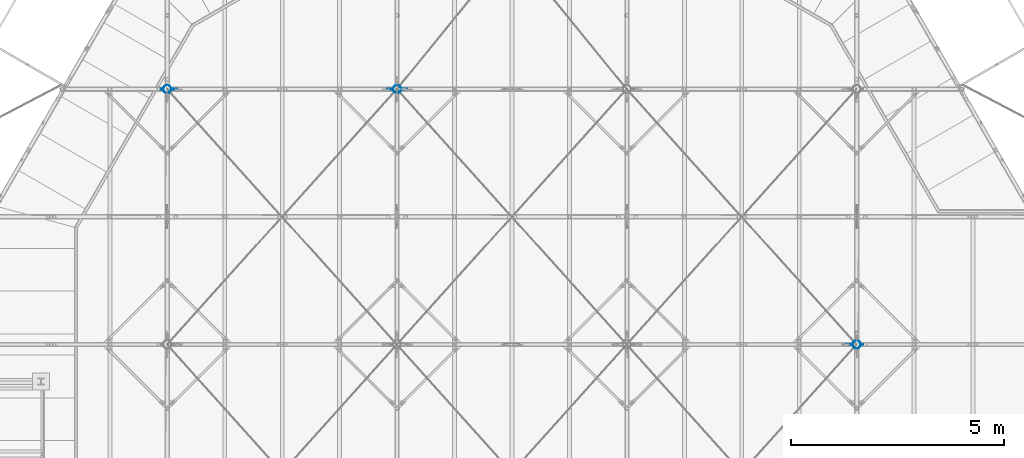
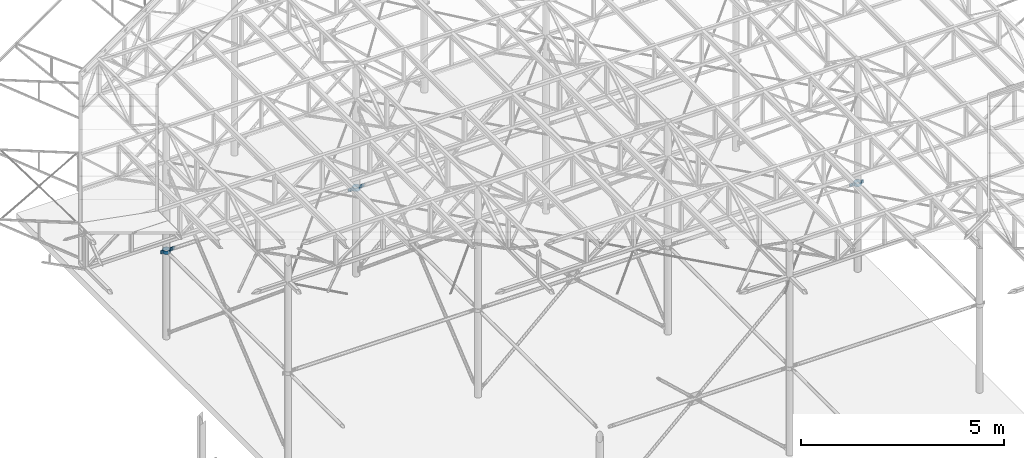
# One storey, part 129 of 132: 6 beams, 6 elements without a shape of their own.
"""IFC2X3 building model written with IfcOpenShell, lengths in millimetres."""

from ifc_helpers import new_model, si_unit, frame, origin_with_axes, place, context, subcontext, project, spatial, faceted_brep, material, type_object, element, aggregate, save


model = new_model("IFC2X3")

# Units and contexts
model_context = context("Model", 3, precision=1e-05, world=origin_with_axes())
body_context = subcontext(model_context, "Body", "Model", "MODEL_VIEW")
ifc_project = project(units=[si_unit("LENGTHUNIT", "METRE", prefix="MILLI"), si_unit("AREAUNIT", "SQUARE_METRE"), si_unit("VOLUMEUNIT", "CUBIC_METRE"), si_unit("MASSUNIT", "GRAM", prefix="KILO"), si_unit("TIMEUNIT", "SECOND"), si_unit("PLANEANGLEUNIT", "RADIAN"), si_unit("SOLIDANGLEUNIT", "STERADIAN"), si_unit("THERMODYNAMICTEMPERATUREUNIT", "DEGREE_CELSIUS"), si_unit("LUMINOUSINTENSITYUNIT", "LUMEN")], contexts=[model_context])

# Site, building, storey
site_placement = place(None, origin_with_axes())
site = spatial("IfcSite", under=ifc_project, at=site_placement, Name="Budowa", CompositionType="ELEMENT")
building_placement = place(site_placement, origin_with_axes())
building = spatial("IfcBuilding", under=site, at=building_placement, Name="Undefined", CompositionType="ELEMENT")
storey_placement = place(building_placement, origin_with_axes())
storey = spatial("IfcBuildingStorey", under=building, at=storey_placement, Name="Undefined", CompositionType="ELEMENT", Elevation=0.0)

# Assembly, beam
assembly_1_placement = place(storey_placement, origin_with_axes())
assembly_1 = element("IfcElementAssembly", 1, at=assembly_1_placement, inside=storey, Name="Steel Assembly", AssemblyPlace="NOTDEFINED", PredefinedType="RIGID_FRAME")
ifc_material = material(Name="STEEL/S235JR")
beam_type = type_object("IfcBeamType", Name="BL8*100", PredefinedType="NOTDEFINED")
beam_1_placement = place(assembly_1_placement, frame((4258.13669400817, 18006.0000002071, 10116.0003779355), z_axis=(0.0, 0.0, 1.0), x_axis=(-1.0, 0.0, 0.0)))
beam_1 = element("IfcBeam", 2, at=beam_1_placement, type_object=beam_type, material=ifc_material, Name="BEAM", ObjectType="BL8*100", context=body_context, shape_type="Brep", body=[
    faceted_brep([(0.0, 4.0, -50.0), (0.0, 4.0, 50.0), (129.968378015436, 4.0, 50.0), (129.968378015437, 4.00000000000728, -50.0), (0.0, -4.0, 50.0), (0.0, -4.0, -50.0), (129.968378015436, -4.0, -50.0), (129.968378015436, -4.0, 50.0), (137.356355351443, 2.19217357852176, 50.0), (137.356355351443, 2.19217357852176, -50.0), (133.662366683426, -4.90391321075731, -50.0), (133.662366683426, -4.90391321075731, 50.0), (136.521594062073, -7.41138806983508, -50.0), (136.521594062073, -7.41138806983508, 50.0), (143.074810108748, -2.8227761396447, 50.0), (143.074810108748, -2.8227761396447, -50.0), (137.89993680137, -10.955789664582, -50.0), (137.89993680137, -10.955789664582, 50.0), (145.831495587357, -9.91157932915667, 50.0), (145.831495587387, -9.91157932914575, -50.0), (146.782928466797, -17.1384239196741, 50.0), (146.782928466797, -17.1384239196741, -50.0), (138.988842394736, -19.2268423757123, -50.0), (138.988842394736, -19.2268423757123, 50.0), (155.714019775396, -38.7000007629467, 50.0), (155.714019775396, -38.7000007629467, -50.0), (148.726032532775, -42.7345153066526, -50.0), (148.726032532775, -42.7345153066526, 50.0), (169.921340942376, -57.2153472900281, 50.0), (169.921340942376, -57.2153472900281, -50.0), (164.215673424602, -62.9210138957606, -50.0), (164.215673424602, -62.9210138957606, 50.0), (188.436691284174, -71.4226760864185, 50.0), (188.436691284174, -71.4226760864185, -50.0), (184.402176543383, -78.4106633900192, -50.0), (184.402176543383, -78.4106633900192, 50.0), (209.998275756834, -80.3537673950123, 50.0), (209.998275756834, -80.3537673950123, -50.0), (207.909857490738, -88.1478534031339, -50.0), (207.909857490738, -88.1478534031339, 50.0), (233.136688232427, -83.4000015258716, 50.0), (233.136688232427, -83.4000015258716, -50.0), (233.136687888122, -91.4690333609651, -50.0), (233.136687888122, -91.4690333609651, 50.0), (256.275115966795, -80.3537673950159, 50.0), (256.275115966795, -80.3537673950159, -50.0), (258.363533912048, -88.1478535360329, -50.0), (258.363533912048, -88.1478535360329, 50.0), (277.836700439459, -71.4226760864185, 50.0), (277.836700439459, -71.4226760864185, -50.0), (281.87121518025, -78.4106633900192, -50.0), (281.87121518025, -78.4106633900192, 50.0), (296.352050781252, -57.2153472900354, 50.0), (296.352050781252, -57.2153472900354, -50.0), (302.057719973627, -62.9210126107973, -50.0), (302.057719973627, -62.9210126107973, 50.0), (310.559356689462, -38.7000007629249, 50.0), (310.559356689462, -38.7000007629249, -50.0), (317.5473417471, -42.7345172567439, -50.0), (317.5473417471, -42.7345172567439, 50.0), (319.490478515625, -17.138423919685, 50.0), (319.490478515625, -17.138423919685, -50.0), (327.284563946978, -19.2268472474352, -50.0), (327.284563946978, -19.2268472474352, 50.0), (320.4419114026, -9.91157923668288, 50.0), (320.441911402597, -9.91157923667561, -50.0), (328.37347018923, -10.9557895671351, -50.0), (328.37347018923, -10.9557895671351, 50.0), (323.198596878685, -2.82277604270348, 50.0), (323.198596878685, -2.82277604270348, -50.0), (329.75181292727, -7.41138797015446, -50.0), (329.75181292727, -7.41138797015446, 50.0), (332.611040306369, -4.90391310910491, -50.0), (332.611040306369, -4.90391310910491, 50.0), (328.917051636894, 2.19217367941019, 50.0), (328.917051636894, 2.19217367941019, -50.0), (336.305028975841, -3.99999989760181, -50.0), (336.305028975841, -3.99999989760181, 50.0), (336.30502897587, 4.00000010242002, 50.0), (336.305028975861, 4.0000001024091, -50.0), (391.273406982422, 4.0000001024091, 50.0), (391.273406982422, 4.0000001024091, -50.0), (391.273406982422, -3.9999998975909, 50.0), (391.273406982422, -3.9999998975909, -50.0)], [[[0, 1, 2, 3]], [[4, 5, 6, 7]], [[5, 4, 1, 0]], [[3, 2, 8, 9]], [[7, 6, 10, 11]], [[10, 12, 13, 11]], [[8, 14, 15, 9]], [[12, 16, 17, 13]], [[14, 18, 19, 15]], [[19, 18, 20, 21]], [[17, 16, 22, 23]], [[21, 20, 24, 25]], [[23, 22, 26, 27]], [[25, 24, 28, 29]], [[27, 26, 30, 31]], [[29, 28, 32, 33]], [[31, 30, 34, 35]], [[33, 32, 36, 37]], [[35, 34, 38, 39]], [[37, 36, 40, 41]], [[39, 38, 42, 43]], [[41, 40, 44, 45]], [[43, 42, 46, 47]], [[45, 44, 48, 49]], [[47, 46, 50, 51]], [[49, 48, 52, 53]], [[51, 50, 54, 55]], [[53, 52, 56, 57]], [[55, 54, 58, 59]], [[57, 56, 60, 61]], [[59, 58, 62, 63]], [[61, 60, 64, 65]], [[63, 62, 66, 67]], [[65, 64, 68, 69]], [[67, 66, 70, 71]], [[70, 72, 73, 71]], [[68, 74, 75, 69]], [[72, 76, 77, 73]], [[74, 78, 79, 75]], [[79, 78, 80, 81]], [[78, 74, 68, 64, 60, 56, 52, 48, 44, 40, 36, 32, 28, 24, 20, 18, 14, 8, 2, 1, 4, 7, 11, 13, 17, 23, 27, 31, 35, 39, 43, 47, 51, 55, 59, 63, 67, 71, 73, 77, 82, 80]], [[77, 76, 83, 82]], [[76, 72, 70, 66, 62, 58, 54, 50, 46, 42, 38, 34, 30, 26, 22, 16, 12, 10, 6, 5, 0, 3, 9, 15, 19, 21, 25, 29, 33, 37, 41, 45, 49, 53, 57, 61, 65, 69, 75, 79, 81, 83]], [[82, 83, 81, 80]]]),
])
aggregate(assembly_1, [beam_1])

assembly_2_placement = place(storey_placement, origin_with_axes())
assembly_2 = element("IfcElementAssembly", 3, at=assembly_2_placement, inside=storey, Name="Steel Assembly", AssemblyPlace="NOTDEFINED", PredefinedType="RIGID_FRAME")
beam_2_placement = place(assembly_2_placement, frame((4183.13669400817, 17993.9999999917, 10116.0003779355), z_axis=(0.0, 0.0, 1.0), x_axis=(-1.0, 0.0, 0.0)))
beam_2 = element("IfcBeam", 4, at=beam_2_placement, type_object=beam_type, material=ifc_material, Name="BEAM", ObjectType="BL8*100", context=body_context, shape_type="Brep", body=[
    faceted_brep([(0.0, 4.0, -50.0), (0.0, 4.0, 50.0), (54.9683780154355, 4.0, 50.0), (54.9683780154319, 4.00000000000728, -50.0), (0.0, -4.0, 50.0), (0.0, -4.0, -50.0), (54.9683780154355, -4.0, -50.0), (54.9683780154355, -4.0, 50.0), (58.6623666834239, 4.90391321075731, 50.0), (58.6623666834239, 4.90391321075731, -50.0), (62.3563553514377, -2.19217357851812, -50.0), (62.3563553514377, -2.19217357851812, 50.0), (68.0748101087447, 2.82277613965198, -50.0), (68.0748101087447, 2.82277613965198, 50.0), (61.5215940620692, 7.41138806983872, 50.0), (61.5215940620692, 7.41138806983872, -50.0), (70.8314955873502, 9.91157932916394, -50.0), (70.8314955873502, 9.91157932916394, 50.0), (62.8999368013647, 10.9557896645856, 50.0), (62.899936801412, 10.9557896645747, -50.0), (63.9888423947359, 19.2268423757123, 50.0), (63.9888423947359, 19.2268423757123, -50.0), (71.7829284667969, 17.1384239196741, -50.0), (71.7829284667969, 17.1384239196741, 50.0), (73.7260325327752, 42.7345153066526, 50.0), (73.7260325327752, 42.7345153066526, -50.0), (80.7140197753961, 38.7000007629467, -50.0), (80.7140197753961, 38.7000007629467, 50.0), (89.2156734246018, 62.9210138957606, 50.0), (89.2156734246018, 62.9210138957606, -50.0), (94.9213409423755, 57.2153472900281, -50.0), (94.9213409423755, 57.2153472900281, 50.0), (109.402176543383, 78.4106633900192, 50.0), (109.402176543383, 78.4106633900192, -50.0), (113.436691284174, 71.4226760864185, -50.0), (113.436691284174, 71.4226760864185, 50.0), (132.909857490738, 88.1478534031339, 50.0), (132.909857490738, 88.1478534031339, -50.0), (134.998275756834, 80.3537673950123, -50.0), (134.998275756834, 80.3537673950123, 50.0), (158.136687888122, 91.4690333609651, 50.0), (158.136687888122, 91.4690333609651, -50.0), (158.136688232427, 83.4000015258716, -50.0), (158.136688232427, 83.4000015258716, 50.0), (183.363533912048, 88.1478535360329, 50.0), (183.363533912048, 88.1478535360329, -50.0), (181.275115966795, 80.3537673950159, -50.0), (181.275115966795, 80.3537673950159, 50.0), (206.87121518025, 78.4106633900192, 50.0), (206.87121518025, 78.4106633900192, -50.0), (202.836700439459, 71.4226760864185, -50.0), (202.836700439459, 71.4226760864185, 50.0), (227.057719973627, 62.9210126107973, 50.0), (227.057719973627, 62.9210126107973, -50.0), (221.352050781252, 57.2153472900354, -50.0), (221.352050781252, 57.2153472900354, 50.0), (242.5473417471, 42.7345172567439, 50.0), (242.5473417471, 42.7345172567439, -50.0), (235.559356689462, 38.7000007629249, -50.0), (235.559356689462, 38.7000007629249, 50.0), (252.284563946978, 19.2268472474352, 50.0), (252.284563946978, 19.2268472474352, -50.0), (244.490478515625, 17.138423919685, -50.0), (244.490478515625, 17.138423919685, 50.0), (253.37347018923, 10.9557895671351, 50.0), (253.373470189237, 10.9557895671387, -50.0), (245.4419114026, 9.91157923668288, -50.0), (245.4419114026, 9.91157923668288, 50.0), (254.751812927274, 7.4113879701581, 50.0), (254.751812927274, 7.4113879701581, -50.0), (248.198596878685, 2.82277604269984, -50.0), (248.198596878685, 2.82277604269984, 50.0), (253.91705163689, -2.19217367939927, -50.0), (253.91705163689, -2.19217367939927, 50.0), (257.611040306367, 4.90391310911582, 50.0), (257.611040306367, 4.90391310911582, -50.0), (261.305028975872, -4.00000010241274, -50.0), (261.305028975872, -4.00000010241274, 50.0), (261.305028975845, 3.99999989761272, 50.0), (261.305028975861, 3.9999998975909, -50.0), (316.273406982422, 3.9999998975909, 50.0), (316.273406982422, 3.9999998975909, -50.0), (316.273406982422, -4.0000001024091, 50.0), (316.273406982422, -4.0000001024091, -50.0)], [[[0, 1, 2, 3]], [[4, 5, 6, 7]], [[5, 4, 1, 0]], [[3, 2, 8, 9]], [[7, 6, 10, 11]], [[10, 12, 13, 11]], [[8, 14, 15, 9]], [[12, 16, 17, 13]], [[14, 18, 19, 15]], [[19, 18, 20, 21]], [[17, 16, 22, 23]], [[21, 20, 24, 25]], [[23, 22, 26, 27]], [[25, 24, 28, 29]], [[27, 26, 30, 31]], [[29, 28, 32, 33]], [[31, 30, 34, 35]], [[33, 32, 36, 37]], [[35, 34, 38, 39]], [[37, 36, 40, 41]], [[39, 38, 42, 43]], [[41, 40, 44, 45]], [[43, 42, 46, 47]], [[45, 44, 48, 49]], [[47, 46, 50, 51]], [[49, 48, 52, 53]], [[51, 50, 54, 55]], [[53, 52, 56, 57]], [[55, 54, 58, 59]], [[57, 56, 60, 61]], [[59, 58, 62, 63]], [[61, 60, 64, 65]], [[63, 62, 66, 67]], [[65, 64, 68, 69]], [[67, 66, 70, 71]], [[70, 72, 73, 71]], [[68, 74, 75, 69]], [[72, 76, 77, 73]], [[74, 78, 79, 75]], [[79, 78, 80, 81]], [[78, 74, 68, 64, 60, 56, 52, 48, 44, 40, 36, 32, 28, 24, 20, 18, 14, 8, 2, 1, 4, 7, 11, 13, 17, 23, 27, 31, 35, 39, 43, 47, 51, 55, 59, 63, 67, 71, 73, 77, 82, 80]], [[77, 76, 83, 82]], [[76, 72, 70, 66, 62, 58, 54, 50, 46, 42, 38, 34, 30, 26, 22, 16, 12, 10, 6, 5, 0, 3, 9, 15, 19, 21, 25, 29, 33, 37, 41, 45, 49, 53, 57, 61, 65, 69, 75, 79, 81, 83]], [[82, 83, 81, 80]]]),
])
aggregate(assembly_2, [beam_2])

assembly_3_placement = place(storey_placement, origin_with_axes())
assembly_3 = element("IfcElementAssembly", 5, at=assembly_3_placement, inside=storey, Name="Steel Assembly", AssemblyPlace="NOTDEFINED", PredefinedType="RIGID_FRAME")
beam_3_placement = place(assembly_3_placement, frame((9658.13669408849, 18006.00000016, 10116.0003779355), z_axis=(0.0, 0.0, 1.0), x_axis=(-1.0, 0.0, 0.0)))
beam_3 = element("IfcBeam", 6, at=beam_3_placement, type_object=beam_type, material=ifc_material, Name="BEAM", ObjectType="BL8*100", context=body_context, shape_type="Brep", body=[
    faceted_brep([(0.0, 4.0, -50.0), (0.0, 4.0, 50.0), (129.968378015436, 4.0, 50.0), (129.968378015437, 4.00000000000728, -50.0), (0.0, -4.0, 50.0), (0.0, -4.0, -50.0), (129.968378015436, -4.0, -50.0), (129.968378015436, -4.0, 50.0), (137.356355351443, 2.19217357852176, 50.0), (137.356355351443, 2.19217357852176, -50.0), (133.662366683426, -4.90391321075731, -50.0), (133.662366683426, -4.90391321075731, 50.0), (136.521594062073, -7.41138806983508, -50.0), (136.521594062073, -7.41138806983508, 50.0), (143.074810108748, -2.8227761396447, 50.0), (143.074810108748, -2.8227761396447, -50.0), (137.89993680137, -10.955789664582, -50.0), (137.89993680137, -10.955789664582, 50.0), (145.831495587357, -9.91157932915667, 50.0), (145.831495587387, -9.91157932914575, -50.0), (146.782928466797, -17.1384239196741, 50.0), (146.782928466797, -17.1384239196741, -50.0), (138.988842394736, -19.2268423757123, -50.0), (138.988842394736, -19.2268423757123, 50.0), (155.714019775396, -38.7000007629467, 50.0), (155.714019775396, -38.7000007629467, -50.0), (148.726032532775, -42.7345153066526, -50.0), (148.726032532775, -42.7345153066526, 50.0), (169.921340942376, -57.2153472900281, 50.0), (169.921340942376, -57.2153472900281, -50.0), (164.215673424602, -62.9210138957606, -50.0), (164.215673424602, -62.9210138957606, 50.0), (188.436691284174, -71.4226760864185, 50.0), (188.436691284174, -71.4226760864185, -50.0), (184.402176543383, -78.4106633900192, -50.0), (184.402176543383, -78.4106633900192, 50.0), (209.998275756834, -80.3537673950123, 50.0), (209.998275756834, -80.3537673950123, -50.0), (207.909857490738, -88.1478534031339, -50.0), (207.909857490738, -88.1478534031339, 50.0), (233.136688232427, -83.4000015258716, 50.0), (233.136688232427, -83.4000015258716, -50.0), (233.136687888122, -91.4690333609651, -50.0), (233.136687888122, -91.4690333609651, 50.0), (256.275115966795, -80.3537673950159, 50.0), (256.275115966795, -80.3537673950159, -50.0), (258.363533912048, -88.1478535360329, -50.0), (258.363533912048, -88.1478535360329, 50.0), (277.836700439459, -71.4226760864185, 50.0), (277.836700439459, -71.4226760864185, -50.0), (281.87121518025, -78.4106633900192, -50.0), (281.87121518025, -78.4106633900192, 50.0), (296.352050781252, -57.2153472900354, 50.0), (296.352050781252, -57.2153472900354, -50.0), (302.057719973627, -62.9210126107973, -50.0), (302.057719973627, -62.9210126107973, 50.0), (310.559356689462, -38.7000007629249, 50.0), (310.559356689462, -38.7000007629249, -50.0), (317.5473417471, -42.7345172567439, -50.0), (317.5473417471, -42.7345172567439, 50.0), (319.490478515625, -17.138423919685, 50.0), (319.490478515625, -17.138423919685, -50.0), (327.284563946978, -19.2268472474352, -50.0), (327.284563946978, -19.2268472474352, 50.0), (320.4419114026, -9.91157923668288, 50.0), (320.441911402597, -9.91157923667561, -50.0), (328.37347018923, -10.9557895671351, -50.0), (328.37347018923, -10.9557895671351, 50.0), (323.198596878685, -2.82277604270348, 50.0), (323.198596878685, -2.82277604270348, -50.0), (329.75181292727, -7.41138797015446, -50.0), (329.75181292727, -7.41138797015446, 50.0), (332.611040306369, -4.90391310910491, -50.0), (332.611040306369, -4.90391310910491, 50.0), (328.917051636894, 2.19217367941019, 50.0), (328.917051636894, 2.19217367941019, -50.0), (336.305028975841, -3.99999989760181, -50.0), (336.305028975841, -3.99999989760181, 50.0), (336.30502897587, 4.00000010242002, 50.0), (336.305028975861, 4.0000001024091, -50.0), (466.273406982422, 4.0000001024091, 50.0), (466.273406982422, 4.0000001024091, -50.0), (466.273406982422, -3.9999998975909, 50.0), (466.273406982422, -3.9999998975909, -50.0)], [[[0, 1, 2, 3]], [[4, 5, 6, 7]], [[5, 4, 1, 0]], [[3, 2, 8, 9]], [[7, 6, 10, 11]], [[10, 12, 13, 11]], [[8, 14, 15, 9]], [[12, 16, 17, 13]], [[14, 18, 19, 15]], [[19, 18, 20, 21]], [[17, 16, 22, 23]], [[21, 20, 24, 25]], [[23, 22, 26, 27]], [[25, 24, 28, 29]], [[27, 26, 30, 31]], [[29, 28, 32, 33]], [[31, 30, 34, 35]], [[33, 32, 36, 37]], [[35, 34, 38, 39]], [[37, 36, 40, 41]], [[39, 38, 42, 43]], [[41, 40, 44, 45]], [[43, 42, 46, 47]], [[45, 44, 48, 49]], [[47, 46, 50, 51]], [[49, 48, 52, 53]], [[51, 50, 54, 55]], [[53, 52, 56, 57]], [[55, 54, 58, 59]], [[57, 56, 60, 61]], [[59, 58, 62, 63]], [[61, 60, 64, 65]], [[63, 62, 66, 67]], [[65, 64, 68, 69]], [[67, 66, 70, 71]], [[70, 72, 73, 71]], [[68, 74, 75, 69]], [[72, 76, 77, 73]], [[74, 78, 79, 75]], [[79, 78, 80, 81]], [[78, 74, 68, 64, 60, 56, 52, 48, 44, 40, 36, 32, 28, 24, 20, 18, 14, 8, 2, 1, 4, 7, 11, 13, 17, 23, 27, 31, 35, 39, 43, 47, 51, 55, 59, 63, 67, 71, 73, 77, 82, 80]], [[77, 76, 83, 82]], [[76, 72, 70, 66, 62, 58, 54, 50, 46, 42, 38, 34, 30, 26, 22, 16, 12, 10, 6, 5, 0, 3, 9, 15, 19, 21, 25, 29, 33, 37, 41, 45, 49, 53, 57, 61, 65, 69, 75, 79, 81, 83]], [[82, 83, 81, 80]]]),
])
aggregate(assembly_3, [beam_3])

assembly_4_placement = place(storey_placement, origin_with_axes())
assembly_4 = element("IfcElementAssembly", 7, at=assembly_4_placement, inside=storey, Name="Steel Assembly", AssemblyPlace="NOTDEFINED", PredefinedType="RIGID_FRAME")
beam_4_placement = place(assembly_4_placement, frame((9583.13669408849, 17993.9999999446, 10116.0003779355), z_axis=(0.0, 0.0, 1.0), x_axis=(-1.0, 0.0, 0.0)))
beam_4 = element("IfcBeam", 8, at=beam_4_placement, type_object=beam_type, material=ifc_material, Name="BEAM", ObjectType="BL8*100", context=body_context, shape_type="Brep", body=[
    faceted_brep([(0.0, 4.0, -50.0), (0.0, 4.0, 50.0), (54.9683780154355, 4.0, 50.0), (54.9683780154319, 4.00000000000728, -50.0), (0.0, -4.0, 50.0), (0.0, -4.0, -50.0), (54.9683780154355, -4.0, -50.0), (54.9683780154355, -4.0, 50.0), (58.6623666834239, 4.90391321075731, 50.0), (58.6623666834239, 4.90391321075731, -50.0), (62.3563553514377, -2.19217357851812, -50.0), (62.3563553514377, -2.19217357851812, 50.0), (68.0748101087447, 2.82277613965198, -50.0), (68.0748101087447, 2.82277613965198, 50.0), (61.5215940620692, 7.41138806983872, 50.0), (61.5215940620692, 7.41138806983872, -50.0), (70.8314955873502, 9.91157932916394, -50.0), (70.8314955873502, 9.91157932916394, 50.0), (62.8999368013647, 10.9557896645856, 50.0), (62.899936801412, 10.9557896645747, -50.0), (63.9888423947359, 19.2268423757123, 50.0), (63.9888423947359, 19.2268423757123, -50.0), (71.7829284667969, 17.1384239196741, -50.0), (71.7829284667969, 17.1384239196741, 50.0), (73.7260325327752, 42.7345153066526, 50.0), (73.7260325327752, 42.7345153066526, -50.0), (80.7140197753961, 38.7000007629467, -50.0), (80.7140197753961, 38.7000007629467, 50.0), (89.2156734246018, 62.9210138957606, 50.0), (89.2156734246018, 62.9210138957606, -50.0), (94.9213409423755, 57.2153472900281, -50.0), (94.9213409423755, 57.2153472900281, 50.0), (109.402176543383, 78.4106633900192, 50.0), (109.402176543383, 78.4106633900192, -50.0), (113.436691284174, 71.4226760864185, -50.0), (113.436691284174, 71.4226760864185, 50.0), (132.909857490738, 88.1478534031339, 50.0), (132.909857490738, 88.1478534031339, -50.0), (134.998275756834, 80.3537673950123, -50.0), (134.998275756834, 80.3537673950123, 50.0), (158.136687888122, 91.4690333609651, 50.0), (158.136687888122, 91.4690333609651, -50.0), (158.136688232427, 83.4000015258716, -50.0), (158.136688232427, 83.4000015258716, 50.0), (183.363533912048, 88.1478535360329, 50.0), (183.363533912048, 88.1478535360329, -50.0), (181.275115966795, 80.3537673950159, -50.0), (181.275115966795, 80.3537673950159, 50.0), (206.87121518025, 78.4106633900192, 50.0), (206.87121518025, 78.4106633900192, -50.0), (202.836700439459, 71.4226760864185, -50.0), (202.836700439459, 71.4226760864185, 50.0), (227.057719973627, 62.9210126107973, 50.0), (227.057719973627, 62.9210126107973, -50.0), (221.352050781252, 57.2153472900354, -50.0), (221.352050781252, 57.2153472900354, 50.0), (242.5473417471, 42.7345172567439, 50.0), (242.5473417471, 42.7345172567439, -50.0), (235.559356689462, 38.7000007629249, -50.0), (235.559356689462, 38.7000007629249, 50.0), (252.284563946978, 19.2268472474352, 50.0), (252.284563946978, 19.2268472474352, -50.0), (244.490478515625, 17.138423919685, -50.0), (244.490478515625, 17.138423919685, 50.0), (253.37347018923, 10.9557895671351, 50.0), (253.373470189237, 10.9557895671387, -50.0), (245.4419114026, 9.91157923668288, -50.0), (245.4419114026, 9.91157923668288, 50.0), (254.751812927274, 7.4113879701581, 50.0), (254.751812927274, 7.4113879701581, -50.0), (248.198596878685, 2.82277604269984, -50.0), (248.198596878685, 2.82277604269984, 50.0), (253.91705163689, -2.19217367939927, -50.0), (253.91705163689, -2.19217367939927, 50.0), (257.611040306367, 4.90391310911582, 50.0), (257.611040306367, 4.90391310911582, -50.0), (261.305028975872, -4.00000010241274, -50.0), (261.305028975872, -4.00000010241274, 50.0), (261.305028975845, 3.99999989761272, 50.0), (261.305028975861, 3.9999998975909, -50.0), (316.273406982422, 3.9999998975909, 50.0), (316.273406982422, 3.9999998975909, -50.0), (316.273406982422, -4.0000001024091, 50.0), (316.273406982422, -4.0000001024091, -50.0)], [[[0, 1, 2, 3]], [[4, 5, 6, 7]], [[5, 4, 1, 0]], [[3, 2, 8, 9]], [[7, 6, 10, 11]], [[10, 12, 13, 11]], [[8, 14, 15, 9]], [[12, 16, 17, 13]], [[14, 18, 19, 15]], [[19, 18, 20, 21]], [[17, 16, 22, 23]], [[21, 20, 24, 25]], [[23, 22, 26, 27]], [[25, 24, 28, 29]], [[27, 26, 30, 31]], [[29, 28, 32, 33]], [[31, 30, 34, 35]], [[33, 32, 36, 37]], [[35, 34, 38, 39]], [[37, 36, 40, 41]], [[39, 38, 42, 43]], [[41, 40, 44, 45]], [[43, 42, 46, 47]], [[45, 44, 48, 49]], [[47, 46, 50, 51]], [[49, 48, 52, 53]], [[51, 50, 54, 55]], [[53, 52, 56, 57]], [[55, 54, 58, 59]], [[57, 56, 60, 61]], [[59, 58, 62, 63]], [[61, 60, 64, 65]], [[63, 62, 66, 67]], [[65, 64, 68, 69]], [[67, 66, 70, 71]], [[70, 72, 73, 71]], [[68, 74, 75, 69]], [[72, 76, 77, 73]], [[74, 78, 79, 75]], [[79, 78, 80, 81]], [[78, 74, 68, 64, 60, 56, 52, 48, 44, 40, 36, 32, 28, 24, 20, 18, 14, 8, 2, 1, 4, 7, 11, 13, 17, 23, 27, 31, 35, 39, 43, 47, 51, 55, 59, 63, 67, 71, 73, 77, 82, 80]], [[77, 76, 83, 82]], [[76, 72, 70, 66, 62, 58, 54, 50, 46, 42, 38, 34, 30, 26, 22, 16, 12, 10, 6, 5, 0, 3, 9, 15, 19, 21, 25, 29, 33, 37, 41, 45, 49, 53, 57, 61, 65, 69, 75, 79, 81, 83]], [[82, 83, 81, 80]]]),
])
aggregate(assembly_4, [beam_4])

assembly_5_placement = place(storey_placement, origin_with_axes())
assembly_5 = element("IfcElementAssembly", 9, at=assembly_5_placement, inside=storey, Name="Steel Assembly", AssemblyPlace="NOTDEFINED", PredefinedType="RIGID_FRAME")
beam_5_placement = place(assembly_5_placement, frame((19991.8633056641, 12006.00000016, 10116.0003779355), z_axis=(0.0, 0.0, 1.0), x_axis=(1.0, 0.0, 0.0)))
beam_5 = element("IfcBeam", 10, at=beam_5_placement, type_object=beam_type, material=ifc_material, Name="BEAM", ObjectType="BL8*100", context=body_context, shape_type="Brep", body=[
    faceted_brep([(0.0, 4.0, -50.0), (0.0, 4.0, 50.0), (129.968378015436, 4.0, 50.0), (129.968378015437, 4.00000000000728, -50.0), (0.0, -4.0, 50.0), (0.0, -4.0, -50.0), (129.968378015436, -4.0, -50.0), (129.968378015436, -4.0, 50.0), (133.662366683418, 4.90391321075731, 50.0), (133.662366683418, 4.90391321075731, -50.0), (137.356355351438, -2.19217357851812, -50.0), (137.356355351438, -2.19217357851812, 50.0), (143.074810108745, 2.82277613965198, -50.0), (143.074810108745, 2.82277613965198, 50.0), (136.521594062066, 7.41138806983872, 50.0), (136.521594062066, 7.41138806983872, -50.0), (145.83149558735, 9.91157932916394, -50.0), (145.83149558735, 9.91157932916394, 50.0), (137.899936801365, 10.9557896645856, 50.0), (137.899936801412, 10.9557896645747, -50.0), (138.988842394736, 19.2268423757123, 50.0), (138.988842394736, 19.2268423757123, -50.0), (146.782928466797, 17.1384239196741, -50.0), (146.782928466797, 17.1384239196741, 50.0), (148.726032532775, 42.7345153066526, 50.0), (148.726032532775, 42.7345153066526, -50.0), (155.714019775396, 38.7000007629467, -50.0), (155.714019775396, 38.7000007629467, 50.0), (164.215673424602, 62.9210138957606, 50.0), (164.215673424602, 62.9210138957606, -50.0), (169.921340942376, 57.2153472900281, -50.0), (169.921340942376, 57.2153472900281, 50.0), (184.402176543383, 78.4106633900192, 50.0), (184.402176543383, 78.4106633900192, -50.0), (188.436691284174, 71.4226760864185, -50.0), (188.436691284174, 71.4226760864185, 50.0), (207.909857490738, 88.1478534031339, 50.0), (207.909857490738, 88.1478534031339, -50.0), (209.998275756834, 80.3537673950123, -50.0), (209.998275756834, 80.3537673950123, 50.0), (233.136687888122, 91.4690333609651, 50.0), (233.136687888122, 91.4690333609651, -50.0), (233.136688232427, 83.4000015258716, -50.0), (233.136688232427, 83.4000015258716, 50.0), (258.363533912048, 88.1478535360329, 50.0), (258.363533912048, 88.1478535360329, -50.0), (256.275115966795, 80.3537673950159, -50.0), (256.275115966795, 80.3537673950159, 50.0), (281.87121518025, 78.4106633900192, 50.0), (281.87121518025, 78.4106633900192, -50.0), (277.836700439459, 71.4226760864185, -50.0), (277.836700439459, 71.4226760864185, 50.0), (302.057719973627, 62.9210126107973, 50.0), (302.057719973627, 62.9210126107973, -50.0), (296.352050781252, 57.2153472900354, -50.0), (296.352050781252, 57.2153472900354, 50.0), (317.5473417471, 42.7345172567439, 50.0), (317.5473417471, 42.7345172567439, -50.0), (310.559356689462, 38.7000007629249, -50.0), (310.559356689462, 38.7000007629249, 50.0), (327.284563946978, 19.2268472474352, 50.0), (327.284563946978, 19.2268472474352, -50.0), (319.490478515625, 17.138423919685, -50.0), (319.490478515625, 17.138423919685, 50.0), (328.37347018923, 10.9557895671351, 50.0), (328.373470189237, 10.9557895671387, -50.0), (320.4419114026, 9.91157923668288, -50.0), (320.4419114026, 9.91157923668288, 50.0), (329.751812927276, 7.41138797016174, 50.0), (329.751812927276, 7.41138797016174, -50.0), (323.19859687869, 2.82277604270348, -50.0), (323.19859687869, 2.82277604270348, 50.0), (328.917051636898, -2.19217367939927, -50.0), (328.917051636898, -2.19217367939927, 50.0), (332.611040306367, 4.90391310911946, 50.0), (332.611040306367, 4.90391310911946, -50.0), (336.305028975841, -3.99999989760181, -50.0), (336.305028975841, -3.99999989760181, 50.0), (336.30502897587, 4.00000010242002, 50.0), (336.305028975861, 4.0000001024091, -50.0), (391.273406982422, 4.0000001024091, 50.0), (391.273406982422, 4.0000001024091, -50.0), (391.273406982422, -3.9999998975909, 50.0), (391.273406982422, -3.9999998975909, -50.0)], [[[0, 1, 2, 3]], [[4, 5, 6, 7]], [[5, 4, 1, 0]], [[3, 2, 8, 9]], [[7, 6, 10, 11]], [[10, 12, 13, 11]], [[8, 14, 15, 9]], [[12, 16, 17, 13]], [[14, 18, 19, 15]], [[19, 18, 20, 21]], [[17, 16, 22, 23]], [[21, 20, 24, 25]], [[23, 22, 26, 27]], [[25, 24, 28, 29]], [[27, 26, 30, 31]], [[29, 28, 32, 33]], [[31, 30, 34, 35]], [[33, 32, 36, 37]], [[35, 34, 38, 39]], [[37, 36, 40, 41]], [[39, 38, 42, 43]], [[41, 40, 44, 45]], [[43, 42, 46, 47]], [[45, 44, 48, 49]], [[47, 46, 50, 51]], [[49, 48, 52, 53]], [[51, 50, 54, 55]], [[53, 52, 56, 57]], [[55, 54, 58, 59]], [[57, 56, 60, 61]], [[59, 58, 62, 63]], [[61, 60, 64, 65]], [[63, 62, 66, 67]], [[65, 64, 68, 69]], [[67, 66, 70, 71]], [[70, 72, 73, 71]], [[68, 74, 75, 69]], [[72, 76, 77, 73]], [[74, 78, 79, 75]], [[79, 78, 80, 81]], [[78, 74, 68, 64, 60, 56, 52, 48, 44, 40, 36, 32, 28, 24, 20, 18, 14, 8, 2, 1, 4, 7, 11, 13, 17, 23, 27, 31, 35, 39, 43, 47, 51, 55, 59, 63, 67, 71, 73, 77, 82, 80]], [[77, 76, 83, 82]], [[76, 72, 70, 66, 62, 58, 54, 50, 46, 42, 38, 34, 30, 26, 22, 16, 12, 10, 6, 5, 0, 3, 9, 15, 19, 21, 25, 29, 33, 37, 41, 45, 49, 53, 57, 61, 65, 69, 75, 79, 81, 83]], [[82, 83, 81, 80]]]),
])
aggregate(assembly_5, [beam_5])

assembly_6_placement = place(storey_placement, origin_with_axes())
assembly_6 = element("IfcElementAssembly", 11, at=assembly_6_placement, inside=storey, Name="Steel Assembly", AssemblyPlace="NOTDEFINED", PredefinedType="RIGID_FRAME")
beam_6_placement = place(assembly_6_placement, frame((20066.8633056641, 11993.9999999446, 10116.0003779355), z_axis=(0.0, 0.0, 1.0), x_axis=(1.0, 0.0, 0.0)))
beam_6 = element("IfcBeam", 12, at=beam_6_placement, type_object=beam_type, material=ifc_material, Name="BEAM", ObjectType="BL8*100", context=body_context, shape_type="Brep", body=[
    faceted_brep([(0.0, 4.0, -50.0), (0.0, 4.0, 50.0), (54.9683780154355, 4.0, 50.0), (54.9683780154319, 4.00000000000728, -50.0), (0.0, -4.0, 50.0), (0.0, -4.0, -50.0), (54.9683780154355, -4.0, -50.0), (54.9683780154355, -4.0, 50.0), (62.3563553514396, 2.19217357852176, 50.0), (62.3563553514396, 2.19217357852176, -50.0), (58.6623666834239, -4.90391321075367, -50.0), (58.6623666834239, -4.90391321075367, 50.0), (61.521594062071, -7.41138806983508, -50.0), (61.521594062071, -7.41138806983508, 50.0), (68.0748101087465, -2.82277613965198, 50.0), (68.0748101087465, -2.82277613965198, -50.0), (62.8999368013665, -10.955789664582, -50.0), (62.8999368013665, -10.955789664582, 50.0), (70.831495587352, -9.91157932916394, 50.0), (70.8314955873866, -9.91157932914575, -50.0), (71.7829284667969, -17.1384239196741, 50.0), (71.7829284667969, -17.1384239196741, -50.0), (63.9888423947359, -19.2268423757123, -50.0), (63.9888423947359, -19.2268423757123, 50.0), (80.7140197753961, -38.7000007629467, 50.0), (80.7140197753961, -38.7000007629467, -50.0), (73.7260325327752, -42.7345153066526, -50.0), (73.7260325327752, -42.7345153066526, 50.0), (94.9213409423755, -57.2153472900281, 50.0), (94.9213409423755, -57.2153472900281, -50.0), (89.2156734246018, -62.9210138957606, -50.0), (89.2156734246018, -62.9210138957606, 50.0), (113.436691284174, -71.4226760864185, 50.0), (113.436691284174, -71.4226760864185, -50.0), (109.402176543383, -78.4106633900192, -50.0), (109.402176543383, -78.4106633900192, 50.0), (134.998275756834, -80.3537673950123, 50.0), (134.998275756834, -80.3537673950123, -50.0), (132.909857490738, -88.1478534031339, -50.0), (132.909857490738, -88.1478534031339, 50.0), (158.136688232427, -83.4000015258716, 50.0), (158.136688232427, -83.4000015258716, -50.0), (158.136687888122, -91.4690333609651, -50.0), (158.136687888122, -91.4690333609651, 50.0), (181.275115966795, -80.3537673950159, 50.0), (181.275115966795, -80.3537673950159, -50.0), (183.363533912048, -88.1478535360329, -50.0), (183.363533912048, -88.1478535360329, 50.0), (202.836700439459, -71.4226760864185, 50.0), (202.836700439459, -71.4226760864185, -50.0), (206.87121518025, -78.4106633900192, -50.0), (206.87121518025, -78.4106633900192, 50.0), (221.352050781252, -57.2153472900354, 50.0), (221.352050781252, -57.2153472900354, -50.0), (227.057719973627, -62.9210126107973, -50.0), (227.057719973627, -62.9210126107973, 50.0), (235.559356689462, -38.7000007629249, 50.0), (235.559356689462, -38.7000007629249, -50.0), (242.5473417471, -42.7345172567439, -50.0), (242.5473417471, -42.7345172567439, 50.0), (244.490478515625, -17.138423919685, 50.0), (244.490478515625, -17.138423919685, -50.0), (252.284563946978, -19.2268472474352, -50.0), (252.284563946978, -19.2268472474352, 50.0), (245.4419114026, -9.91157923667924, 50.0), (245.441911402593, -9.91157923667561, -50.0), (253.37347018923, -10.9557895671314, -50.0), (253.37347018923, -10.9557895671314, 50.0), (248.198596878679, -2.82277604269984, 50.0), (248.198596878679, -2.82277604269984, -50.0), (254.75181292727, -7.41138797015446, -50.0), (254.75181292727, -7.41138797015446, 50.0), (257.611040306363, -4.90391310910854, -50.0), (257.611040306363, -4.90391310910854, 50.0), (253.917051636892, 2.19217367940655, 50.0), (253.917051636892, 2.19217367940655, -50.0), (261.305028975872, -4.00000010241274, -50.0), (261.305028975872, -4.00000010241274, 50.0), (261.305028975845, 3.99999989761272, 50.0), (261.305028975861, 3.9999998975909, -50.0), (316.273406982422, 3.9999998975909, 50.0), (316.273406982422, 3.9999998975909, -50.0), (316.273406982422, -4.0000001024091, 50.0), (316.273406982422, -4.0000001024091, -50.0)], [[[0, 1, 2, 3]], [[4, 5, 6, 7]], [[5, 4, 1, 0]], [[3, 2, 8, 9]], [[7, 6, 10, 11]], [[10, 12, 13, 11]], [[8, 14, 15, 9]], [[12, 16, 17, 13]], [[14, 18, 19, 15]], [[19, 18, 20, 21]], [[17, 16, 22, 23]], [[21, 20, 24, 25]], [[23, 22, 26, 27]], [[25, 24, 28, 29]], [[27, 26, 30, 31]], [[29, 28, 32, 33]], [[31, 30, 34, 35]], [[33, 32, 36, 37]], [[35, 34, 38, 39]], [[37, 36, 40, 41]], [[39, 38, 42, 43]], [[41, 40, 44, 45]], [[43, 42, 46, 47]], [[45, 44, 48, 49]], [[47, 46, 50, 51]], [[49, 48, 52, 53]], [[51, 50, 54, 55]], [[53, 52, 56, 57]], [[55, 54, 58, 59]], [[57, 56, 60, 61]], [[59, 58, 62, 63]], [[61, 60, 64, 65]], [[63, 62, 66, 67]], [[65, 64, 68, 69]], [[67, 66, 70, 71]], [[70, 72, 73, 71]], [[68, 74, 75, 69]], [[72, 76, 77, 73]], [[74, 78, 79, 75]], [[79, 78, 80, 81]], [[78, 74, 68, 64, 60, 56, 52, 48, 44, 40, 36, 32, 28, 24, 20, 18, 14, 8, 2, 1, 4, 7, 11, 13, 17, 23, 27, 31, 35, 39, 43, 47, 51, 55, 59, 63, 67, 71, 73, 77, 82, 80]], [[77, 76, 83, 82]], [[76, 72, 70, 66, 62, 58, 54, 50, 46, 42, 38, 34, 30, 26, 22, 16, 12, 10, 6, 5, 0, 3, 9, 15, 19, 21, 25, 29, 33, 37, 41, 45, 49, 53, 57, 61, 65, 69, 75, 79, 81, 83]], [[82, 83, 81, 80]]]),
])
aggregate(assembly_6, [beam_6])

save(model, "model.ifc")
